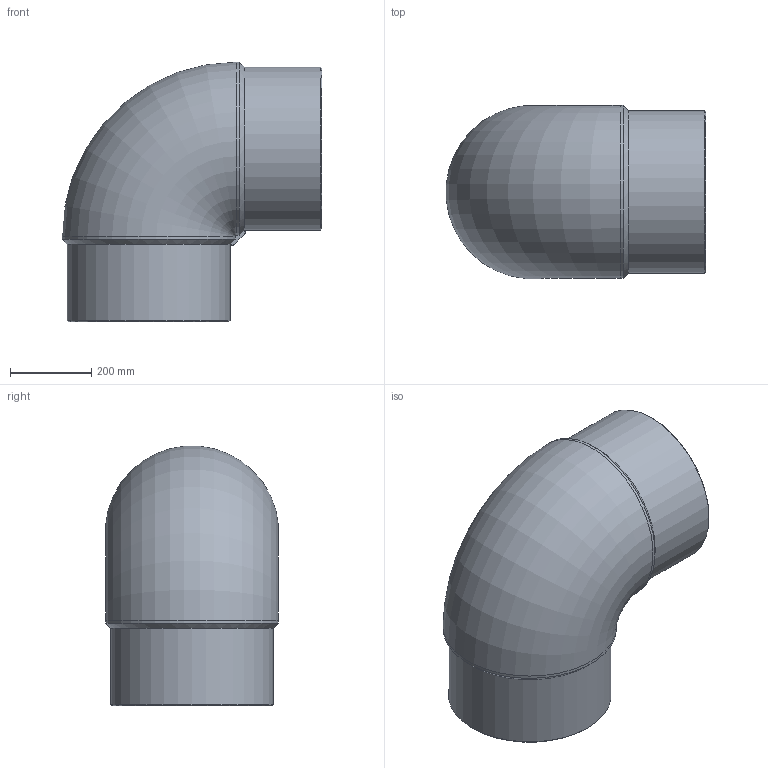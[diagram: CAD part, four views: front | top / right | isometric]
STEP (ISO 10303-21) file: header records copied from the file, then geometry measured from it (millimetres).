
FILE_DESCRIPTION(/* description */ ('Unknown'),/* implementation_level */ '2;1');
FILE_NAME(/* name */ 'G9P400H',/* time_stamp */ '2022-01-07T11:01:42+01:00',/* author */ ('Unknown'),/* organization */ ('Unknown'),/* preprocessor_version */ 'ST-DEVELOPER v18.1',/* originating_system */ 'Solid Edge',/* authorisation */ 'Unknown');
FILE_SCHEMA (('AUTOMOTIVE_DESIGN {1 0 10303 214 3 1 1}'));
Length unit declared in the file: millimetre
Products named in the file (1): G9P400H
Bounding box: 637.19 x 424.43 x 637.19 mm (x, y, z)
Volume: 51800684.2 mm3; surface area: 1806997.4 mm2
Topology: 1 solids, 1 shells, 23 faces, 59 edges, 38 vertices
Faces by surface type: plane 9, cylinder 8, cone 4, torus 2
Full cylindrical faces by diameter (mm): 290.6 x2, 400 x2
Entity records: 704 total; most frequent: CARTESIAN_POINT 165, DIRECTION 106, ORIENTED_EDGE 98, EDGE_CURVE 49, AXIS2_PLACEMENT_3D 45, VERTEX_POINT 34, EDGE_LOOP 31, FACE_BOUND 31
